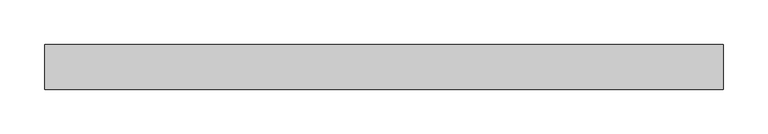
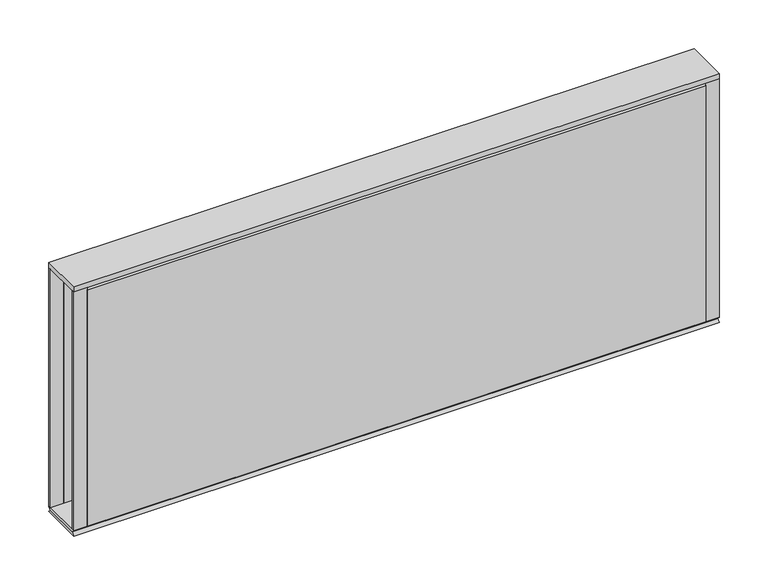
"""IFC4 building model written with IfcOpenShell, lengths in millimetres: furniture geometry, Steelcase - Kick Solutions - Panel - Stacker - Tackable Acoustical : 12H x 30W."""

import ifcopenshell
import ifcopenshell.guid

model = None  # the IFC model being written
_history = None  # IfcOwnerHistory: only IFC2X3 demands one
_inside = {}  # id of a spatial element -> (the spatial element, [elements in it])
_under = {}  # id of a project, library or spatial element -> (it, [spatial elements below it])
_declared = {}  # id of a project -> (the project, [libraries it declares])
_typed = {}  # id of a type object -> (the type object, [elements of that type])
_made_of = {}  # id of a material, layer set ... -> (it, [elements and type objects made of it])


def new_model(schema):
    """Start an empty IFC model of exactly this schema.

    Asked for "IFC4X3", IfcOpenShell would pick the latest addendum, in which some entities
    have other attributes; the version numbers below select the first issue.
    IFC2X3 requires an IfcOwnerHistory on every rooted entity: one is made here for all.
    """
    global model, _history
    if schema == "IFC4X3":
        model = ifcopenshell.file(schema_version=(4, 3, 0, 0))
    else:
        model = ifcopenshell.file(schema=schema)
    _inside.clear()
    _under.clear()
    _declared.clear()
    _typed.clear()
    _made_of.clear()
    _history = None
    if model.schema == "IFC2X3":
        org = make("IfcOrganization", Name="unknown")
        user = make(
            "IfcPersonAndOrganization",
            ThePerson=make("IfcPerson", FamilyName="unknown"),
            TheOrganization=org,
        )
        app = make(
            "IfcApplication",
            ApplicationDeveloper=org,
            Version="unknown",
            ApplicationFullName="unknown",
            ApplicationIdentifier="unknown",
        )
        _history = make(
            "IfcOwnerHistory",
            OwningUser=user,
            OwningApplication=app,
            ChangeAction="ADDED",
            CreationDate=0,
        )
    return model


def make(cls, **values):
    """One entity of the class cls with the attributes given. An attribute that is None is left unset."""
    return model.create_entity(
        cls, **{name: value for name, value in values.items() if value is not None}
    )


def rooted(cls, **values):
    """An entity with a GlobalId (a new one), such as an element, a storey or a relation."""
    return make(cls, GlobalId=ifcopenshell.guid.new(), OwnerHistory=_history, **values)


def si_unit(unit_type, name, prefix=None):
    """IfcSIUnit, for example si_unit("LENGTHUNIT", "METRE", prefix="MILLI")."""
    return make("IfcSIUnit", UnitType=unit_type, Prefix=prefix, Name=name)


def assignment(units):
    """IfcUnitAssignment: the units of a project."""
    return None if units is None else make("IfcUnitAssignment", Units=units)


def point(xyz):
    """IfcCartesianPoint."""
    return None if xyz is None else make("IfcCartesianPoint", Coordinates=xyz)


def direction(xyz):
    """IfcDirection."""
    return None if xyz is None else make("IfcDirection", DirectionRatios=xyz)


def frame(location, z_axis=None, x_axis=None):
    """IfcAxis2Placement3D, a coordinate frame: its origin and axes. An axis left out is left unset."""
    return make(
        "IfcAxis2Placement3D",
        Location=point(location),
        Axis=direction(z_axis),
        RefDirection=direction(x_axis),
    )


def origin():
    """The frame at (0, 0, 0) with its axes left unset."""
    return frame((0.0, 0.0, 0.0))


def place(relative_to, where):
    """IfcLocalPlacement: puts the frame where relative to a parent placement (None: the world)."""
    return make(
        "IfcLocalPlacement", PlacementRelTo=relative_to, RelativePlacement=where
    )


def context(
    kind, dimensions, precision=None, world=None, true_north=None, identifier=None
):
    """IfcGeometricRepresentationContext, for example the 3D "Model" context."""
    return make(
        "IfcGeometricRepresentationContext",
        ContextIdentifier=identifier,
        ContextType=kind,
        CoordinateSpaceDimension=dimensions,
        Precision=precision,
        WorldCoordinateSystem=world,
        TrueNorth=true_north,
    )


def project(units=None, contexts=None):
    """IfcProject with its units and contexts."""
    return rooted(
        "IfcProject",
        Name="project",
        RepresentationContexts=contexts,
        UnitsInContext=assignment(units),
    )


def spatial(cls, under=None, at=None, **own):
    """A site, building, storey or space (cls), placed at a placement, below another one or the project."""
    s = rooted(cls, ObjectPlacement=at, **own)
    if under is not None:
        _under.setdefault(under.id(), (under, []))[1].append(s)
    return s


def polyline(points):
    """IfcPolyline through the points."""
    return make("IfcPolyline", Points=[point(p) for p in points])


def outline(outer, holes=None, kind="AREA"):
    """IfcArbitraryClosedProfileDef: a profile drawn as a closed curve; with holes, ...WithVoids."""
    if holes is None:
        return make("IfcArbitraryClosedProfileDef", ProfileType=kind, OuterCurve=outer)
    return make(
        "IfcArbitraryProfileDefWithVoids",
        ProfileType=kind,
        OuterCurve=outer,
        InnerCurves=holes,
    )


def extrude(swept, where, along, depth):
    """IfcExtrudedAreaSolid: the profile swept, set in the frame where, extruded along a direction by depth."""
    return make(
        "IfcExtrudedAreaSolid",
        SweptArea=swept,
        Position=where,
        ExtrudedDirection=direction(along),
        Depth=depth,
    )


def shape(context_of_items, identifier, shape_type, items):
    """IfcShapeRepresentation: the items that make up one representation, for example the "Body"."""
    return make(
        "IfcShapeRepresentation",
        ContextOfItems=context_of_items,
        RepresentationIdentifier=identifier,
        RepresentationType=shape_type,
        Items=items,
    )


def source(mapping_origin, context_of_items, identifier, shape_type, items):
    """IfcRepresentationMap: a shape defined once, which mapped items show again and again."""
    return make(
        "IfcRepresentationMap",
        MappingOrigin=mapping_origin,
        MappedRepresentation=shape(context_of_items, identifier, shape_type, items),
    )


def transform(
    local_origin,
    x_axis=None,
    y_axis=None,
    z_axis=None,
    scale=None,
    scale2=None,
    scale3=None,
    uniform=True,
):
    """IfcCartesianTransformationOperator3D, or its non-uniform kind. x_axis, y_axis, z_axis: its Axis1, 2, 3."""
    if uniform:
        return make(
            "IfcCartesianTransformationOperator3D",
            Axis1=direction(x_axis),
            Axis2=direction(y_axis),
            LocalOrigin=point(local_origin),
            Scale=scale,
            Axis3=direction(z_axis),
        )
    return make(
        "IfcCartesianTransformationOperator3DnonUniform",
        Axis1=direction(x_axis),
        Axis2=direction(y_axis),
        LocalOrigin=point(local_origin),
        Scale=scale,
        Axis3=direction(z_axis),
        Scale2=scale2,
        Scale3=scale3,
    )


def mapped(mapping_source, mapping_target):
    """IfcMappedItem: shows the shape of a source again, moved by a transform."""
    return make(
        "IfcMappedItem", MappingSource=mapping_source, MappingTarget=mapping_target
    )


def made_of(thing, what):
    """Note that an element or type object is made of a material, layer set ...; save() writes the relation."""
    if what is not None:
        _made_of.setdefault(what.id(), (what, []))[1].append(thing)
    return thing


def element(
    cls,
    number,
    at=None,
    inside=None,
    cuts=None,
    type_object=None,
    material=None,
    context=None,
    identifier="Body",
    shape_type=None,
    held_by="IfcProductDefinitionShape",
    body=None,
    shapes=None,
    **own,
):
    """One element of the class cls, such as IfcWall. Its Tag is "e" and its number.

    at: its placement. inside: the storey or other place that contains it. cuts: it is an
    opening in that element (IfcRelVoidsElement). A single representation is given by context,
    identifier, shape_type and body (its items); several are given by shapes. held_by: the class
    of the entity that holds the representations. save() writes the other relations.
    """
    e = rooted(cls, Tag="e%d" % number, ObjectPlacement=at, **own)
    if body is not None:
        shapes = [shape(context, identifier, shape_type, body)]
    if shapes is not None:
        e.Representation = make(held_by, Representations=shapes)
    if inside is not None:
        _inside.setdefault(inside.id(), (inside, []))[1].append(e)
    if cuts is not None:
        rooted(
            "IfcRelVoidsElement", RelatingBuildingElement=cuts, RelatedOpeningElement=e
        )
    if type_object is not None:
        _typed.setdefault(type_object.id(), (type_object, []))[1].append(e)
    return made_of(e, material)


def aggregate(whole, parts):
    """IfcRelAggregates: a whole, such as a stair, and the parts it consists of."""
    return rooted("IfcRelAggregates", RelatingObject=whole, RelatedObjects=parts)


def save(model, path):
    """Write the relations noted so far, then the file.

    IfcRelAggregates (storeys below a building ...), IfcRelContainedInSpatialStructure (elements
    in a storey), IfcRelDefinesByType, IfcRelAssociatesMaterial and IfcRelDeclares: one each for
    every whole, place, type object, material and project.
    """
    for whole, parts in _under.values():
        aggregate(whole, parts)
    for where, things in _inside.values():
        rooted(
            "IfcRelContainedInSpatialStructure",
            RelatedElements=things,
            RelatingStructure=where,
        )
    for kind, things in _typed.values():
        rooted("IfcRelDefinesByType", RelatedObjects=things, RelatingType=kind)
    for what, things in _made_of.values():
        rooted("IfcRelAssociatesMaterial", RelatedObjects=things, RelatingMaterial=what)
    for by, libraries in _declared.values():
        rooted("IfcRelDeclares", RelatingContext=by, RelatedDefinitions=libraries)
    model.write(path)


def furniture_37e4b6f3(model_context):
    return source(origin(), model_context, "Body", "SweptSolid", [
        extrude(outline(polyline([(-50.7995075, 1073.2669139), (-0.000494, 1073.2669139), (-3.1752531, 1070.0921549), (-47.6247484, 1070.0921549), (-50.7995075, 1073.2669139)])), frame((0.0, 0.0, 0.0), z_axis=(1.0, 0.0, 0.0), x_axis=(0.0, 1.0, 0.0)), (0.0, 0.0, 1.0), 762.0),
        extrude(outline(polyline([(0.0, 1073.2669139), (-3.1750015, 1073.2669139), (-3.1750015, 1371.7169018), (0.0, 1368.6357466), (0.0, 1073.2669139)])), frame((15.8749996, 0.0, 0.0), z_axis=(1.0, 0.0, 0.0), x_axis=(0.0, 1.0, 0.0)), (0.0, 0.0, 1.0), 730.2500008),
        extrude(outline(polyline([(-50.8000015, 1073.2669139), (-50.8000015, 1368.6357466), (-47.625, 1371.7169018), (-47.625, 1073.2669139), (-50.8000015, 1073.2669139)])), frame((15.8749996, 0.0, 0.0), z_axis=(1.0, 0.0, 0.0), x_axis=(0.0, 1.0, 0.0)), (0.0, 0.0, 1.0), 730.2500008),
        extrude(outline(polyline([(762.0, -3.1750015), (746.1250004, -3.1750015), (746.1250004, 0.0), (762.0, 0.0), (762.0, -3.1750015)])), frame((0.0, 0.0, 1073.2669139), z_axis=(0.0, 0.0, 1.0), x_axis=(1.0, 0.0, 0.0)), (0.0, 0.0, 1.0), 298.4499879),
        extrude(outline(polyline([(15.8749996, -50.8000015), (0.0, -50.8000015), (0.0, -47.625), (15.8749996, -47.625), (15.8749996, -50.8000015)])), frame((0.0, 0.0, 1073.2669139), z_axis=(0.0, 0.0, 1.0), x_axis=(1.0, 0.0, 0.0)), (0.0, 0.0, 1.0), 298.4499879),
        extrude(outline(polyline([(762.0, 0.0), (762.0, -50.8000015), (0.0, -50.8000015), (0.0, 0.0), (762.0, 0.0)])), frame((0.0, 0.0, 1371.7169018), z_axis=(0.0, 0.0, 1.0), x_axis=(1.0, 0.0, 0.0)), (0.0, 0.0, 1.0), 6.35),
        extrude(outline(polyline([(15.8749996, -3.1750015), (0.0, -3.1750015), (0.0, 0.0), (15.8749996, 0.0), (15.8749996, -3.1750015)])), frame((0.0, 0.0, 1073.2669139), z_axis=(0.0, 0.0, 1.0), x_axis=(1.0, 0.0, 0.0)), (0.0, 0.0, 1.0), 298.4499879),
        extrude(outline(polyline([(762.0, -50.8000015), (746.1250004, -50.8000015), (746.1250004, -47.625), (762.0, -47.625), (762.0, -50.8000015)])), frame((0.0, 0.0, 1073.2669139), z_axis=(0.0, 0.0, 1.0), x_axis=(1.0, 0.0, 0.0)), (0.0, 0.0, 1.0), 298.4499879),
        extrude(outline(polyline([(-50.8000015, 1066.9169018), (-47.6247484, 1070.0921549), (-3.1752531, 1070.0921549), (0.0, 1066.9169018), (-50.8000015, 1066.9169018)])), frame((0.0, 0.0, 0.0), z_axis=(1.0, 0.0, 0.0), x_axis=(0.0, 1.0, 0.0)), (0.0, 0.0, 1.0), 762.0),
    ])


if __name__ == "__main__":
    model = new_model("IFC4")
    model_context = context("Model", 3, world=origin())
    ifc_project = project(units=[si_unit("LENGTHUNIT", "METRE", prefix="MILLI")], contexts=[model_context])
    site = spatial("IfcSite", under=ifc_project)
    building = spatial("IfcBuilding", under=site)
    placement = place(None, origin())
    furniture_shape = furniture_37e4b6f3(model_context)
    element("IfcFurniture", 1, ObjectType="Steelcase - Kick Solutions - Panel - Stacker - Tackable Acoustical : 12H x 30W", at=placement, inside=building, context=model_context, shape_type="MappedRepresentation", body=[
        mapped(furniture_shape, transform((0.0, 0.0, 0.0), x_axis=(1.0, 0.0, 0.0), y_axis=(0.0, 1.0, 0.0), z_axis=(0.0, 0.0, 1.0))),
    ])
    save(model, "model.ifc")
